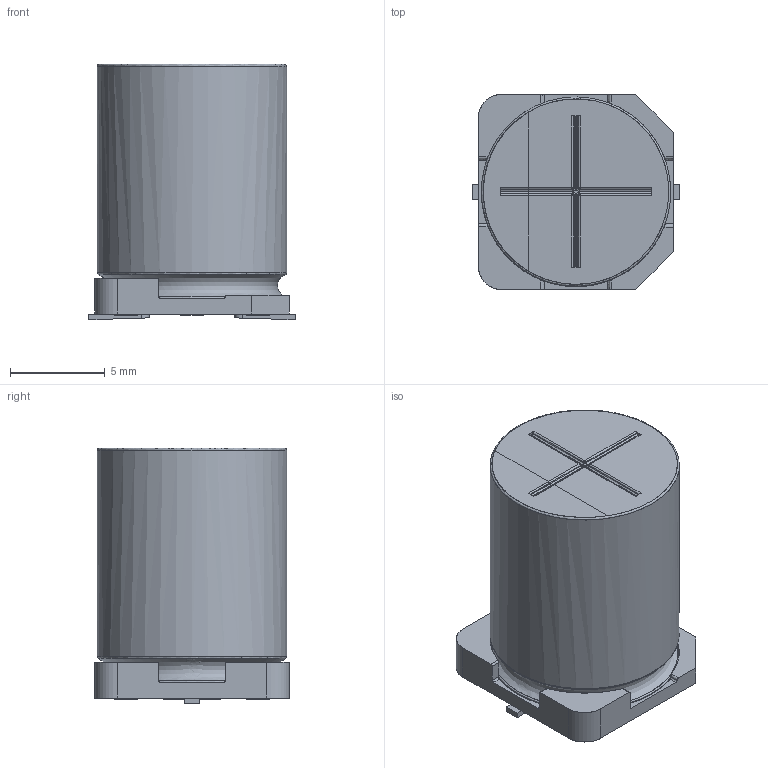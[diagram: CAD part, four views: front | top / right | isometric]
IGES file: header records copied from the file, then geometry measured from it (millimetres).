
Start section: JAMA-IS VERSION  1.0
Bounding box: 10.9 x 10.3 x 13.5 mm (x, y, z)
Surface area: 866.3 mm2 (no closed solid volume)
Topology: 0 solids, 0 shells, 134 faces, 1310 edges, 1290 vertices
Faces by surface type: bspline 134
